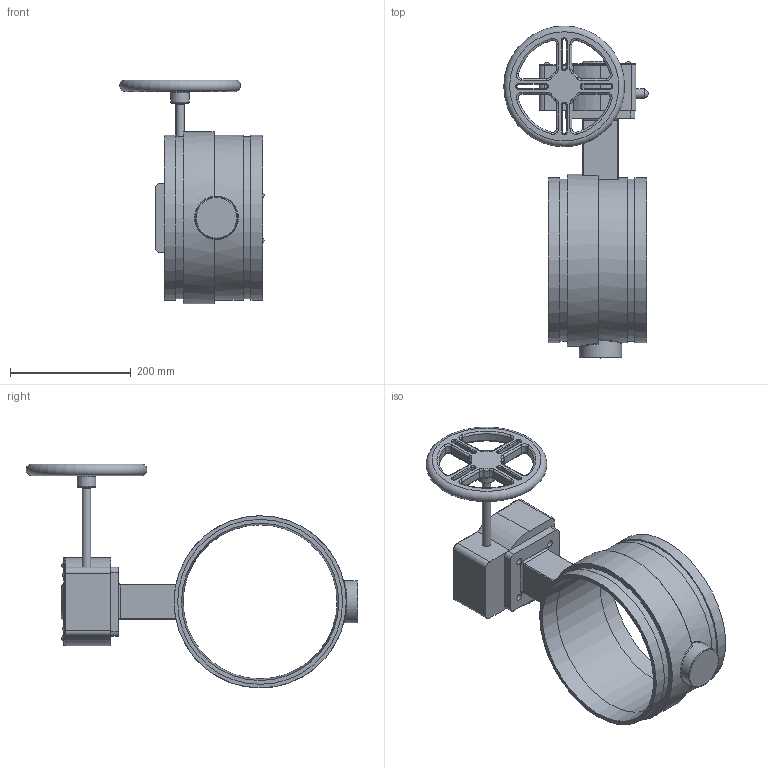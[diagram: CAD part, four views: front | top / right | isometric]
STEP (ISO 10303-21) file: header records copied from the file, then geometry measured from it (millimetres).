
FILE_DESCRIPTION(/* description */ ('Vic Series 461 Vic-300 MasterSeal SS Butterfly Valve w/Gear Op','CAx-IF Rec.Pracs.---Representation and Presentation of Product Manufacturing Information (PMI)---4.0---2014-10-13'),/* implementation_level */ '2;1');
FILE_NAME(/* name */ 'C:\Users\kkamble\AppData\Roaming\Autodesk\ApplicationPlugins\Back Up\Victaulic_SS-OGS_Valve Butterfly Vic-300 Masterseal GO_Series 461 (OGS)\Victaulic_SS-OGS_Valve Butterfly Vic-300 Masterseal GO_10 (250).stp',/* time_stamp */ '2020-09-02T14:51:21+05:00',/* author */ ('jbrannon'),/* organization */ ('Victaulic'),/* preprocessor_version */ 'ST-DEVELOPER v17.2',/* originating_system */ 'Autodesk Inventor 2019',/* authorisation */ '');
FILE_SCHEMA (('AP242_MANAGED_MODEL_BASED_3D_ENGINEERING_MIM_LF { 1 0 10303 442 1 1 4 }'));
Length unit declared in the file: inch
Products named in the file (3): 461-10.0; 461-10.0_1; 461-10.0_2
Assembly tree (2 placements, depth 2):
  461-10.0
    461-10.0_1
    461-10.0_2
Bounding box: 239.01 x 549.15 x 370.59 mm (x, y, z)
Volume: 3947452.2 mm3; surface area: 521145 mm2
Topology: 2 solids, 2 shells, 357 faces, 841 edges, 510 vertices
Faces by surface type: cylinder 140, plane 95, torus 91, bspline 16, sphere 12, cone 3
Full cylindrical faces by diameter (mm): 7.938 x4, 10.922 x4, 12.7 x2, 13.97 x1, 15.875 x2, 30.48 x1, 63.5 x1, 69.85 x1, 70.104 x1, 254.794 x1, 268.275 x2, 273.05 x3, 284.988 x1
Entity records: 11508 total; most frequent: CARTESIAN_POINT 2486, DIRECTION 1983, ORIENTED_EDGE 1672, EDGE_CURVE 836, AXIS2_PLACEMENT_3D 836, VERTEX_POINT 511, CIRCLE 486, EDGE_LOOP 411
